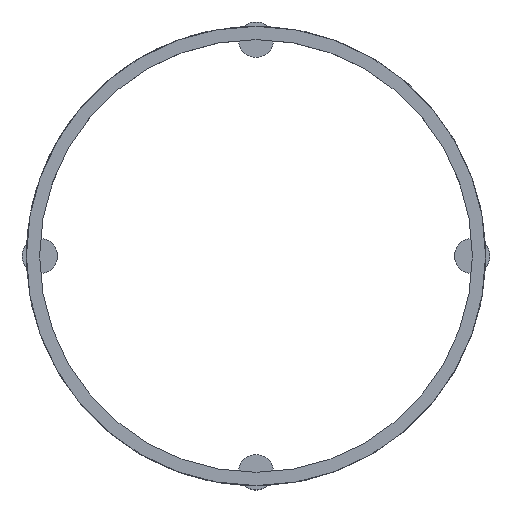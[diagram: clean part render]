
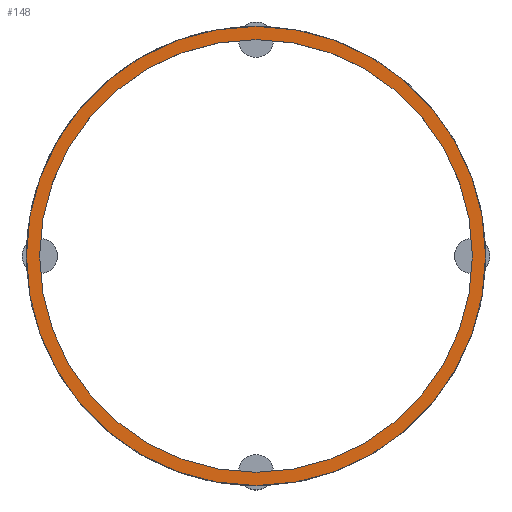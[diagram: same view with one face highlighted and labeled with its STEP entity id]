
A CAD part, top view. The second image highlights one B-rep face of the part: STEP entity #148.
In plain terms, the highlighted planar face has unit normal (0, 0, 1).
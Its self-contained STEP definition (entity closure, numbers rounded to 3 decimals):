
#103=PLANE('',#738);
#127=FACE_BOUND('',#245,.T.);
#128=FACE_BOUND('',#246,.T.);
#148=ADVANCED_FACE('',(#127,#128),#103,.T.);
#245=EDGE_LOOP('',(#375));
#246=EDGE_LOOP('',(#376));
#375=ORIENTED_EDGE('',*,*,#534,.F.);
#376=ORIENTED_EDGE('',*,*,#587,.T.);
#482=VERTEX_POINT('',#1040);
#527=VERTEX_POINT('',#1150);
#534=EDGE_CURVE('',#482,#482,#616,.T.);
#587=EDGE_CURVE('',#527,#527,#655,.T.);
#616=CIRCLE('',#686,24.5);
#655=CIRCLE('',#737,26.);
#686=AXIS2_PLACEMENT_3D('',#1039,#803,#804);
#737=AXIS2_PLACEMENT_3D('',#1149,#919,#920);
#738=AXIS2_PLACEMENT_3D('',#1151,#921,#922);
#803=DIRECTION('',(0.,0.,1.));
#804=DIRECTION('',(1.,0.,0.));
#919=DIRECTION('',(0.,0.,1.));
#920=DIRECTION('',(1.,0.,0.));
#921=DIRECTION('',(0.,0.,1.));
#922=DIRECTION('',(1.,0.,0.));
#1039=CARTESIAN_POINT('',(0.,0.,6.));
#1040=CARTESIAN_POINT('',(24.5,0.,6.));
#1149=CARTESIAN_POINT('',(0.,0.,6.));
#1150=CARTESIAN_POINT('',(26.,0.,6.));
#1151=CARTESIAN_POINT('',(0.,0.,6.));
